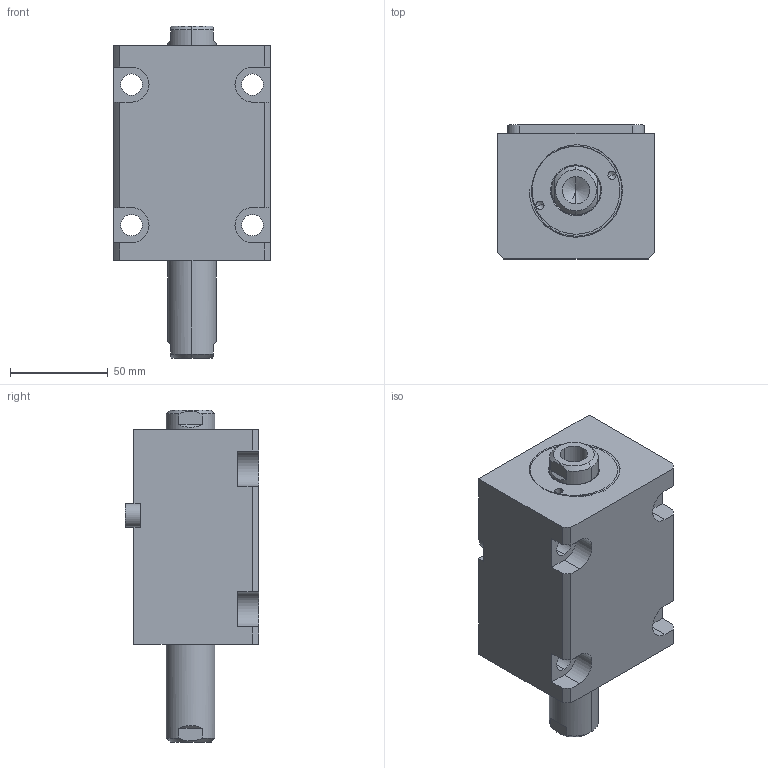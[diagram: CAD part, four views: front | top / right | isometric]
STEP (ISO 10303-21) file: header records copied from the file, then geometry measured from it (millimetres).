
FILE_DESCRIPTION (( 'STEP AP214' ), '1' );
FILE_NAME ('chtb-lwm40x40n_asm.STEP', '2018-05-30T08:03:33', ( 'Windows' ), ( 'Microsoft' ), 'SwSTEP 2.0', 'SolidWorks 2015', '' );
FILE_SCHEMA (( 'AUTOMOTIVE_DESIGN' ));
Length unit declared in the file: millimetre
Products named in the file (5): CHTB-SW40X40NHSG; CHTB-SD40QG; CHTB-LA40PJ; CHTB-LWM40X40NBT; chtb-lwm40x40n_asm
Assembly tree (4 placements, depth 2):
  chtb-lwm40x40n_asm
    CHTB-LWM40X40NBT
    CHTB-LA40PJ
    CHTB-SD40QG
    CHTB-SW40X40NHSG
Bounding box: 80 x 68.5 x 170 mm (x, y, z)
Volume: 520888.6 mm3; surface area: 94353.9 mm2
Topology: 4 solids, 4 shells, 166 faces, 450 edges, 296 vertices
Faces by surface type: cylinder 77, plane 50, bspline 14, cone 13, torus 12
Entity records: 10488 total; most frequent: CARTESIAN_POINT 6156, ORIENTED_EDGE 880, DIRECTION 821, EDGE_CURVE 440, AXIS2_PLACEMENT_3D 326, VERTEX_POINT 296, EDGE_LOOP 196, LINE 169
